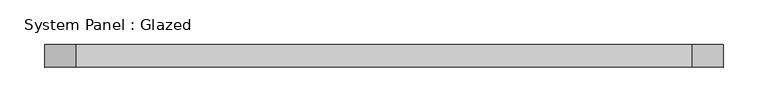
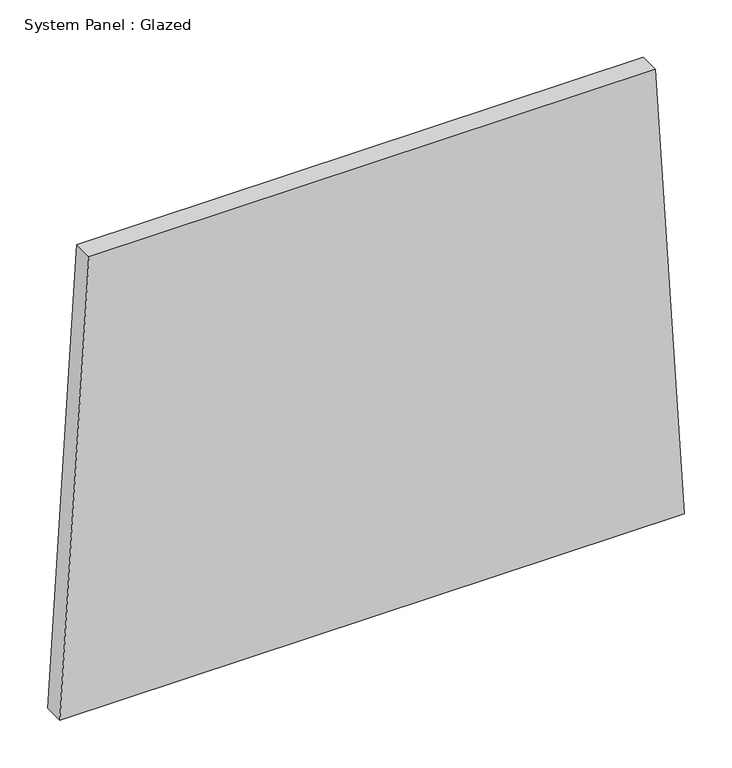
"""IFC4 building model written with IfcOpenShell, lengths in millimetres: plate geometry, System Panel : Glazed."""

from ifc_helpers import new_model, si_unit, frame, origin, place, context, project, spatial, polyline, outline, extrude, source, transform, mapped, element, save


def system_panel_glazed_fa5f9ab5(model_context):
    return source(origin(), model_context, "Body", "SweptSolid", [
        extrude(outline(polyline([(0.0, -379.354514), (0.0, 379.354514), (583.0834285, 344.0147429), (583.0834285, -344.0147429), (0.0, -379.354514)])), frame((0.0, 19.05, 0.0), z_axis=(0.0, 1.0, 0.0), x_axis=(0.0, 0.0, 1.0)), (0.0, 0.0, 1.0), 25.4),
    ])


if __name__ == "__main__":
    model = new_model("IFC4")
    model_context = context("Model", 3, world=origin())
    ifc_project = project(units=[si_unit("LENGTHUNIT", "METRE", prefix="MILLI")], contexts=[model_context])
    site = spatial("IfcSite", under=ifc_project)
    building = spatial("IfcBuilding", under=site)
    placement = place(None, origin())
    system_panel_glazed_shape = system_panel_glazed_fa5f9ab5(model_context)
    element("IfcPlate", 1, ObjectType="System Panel : Glazed", at=placement, inside=building, context=model_context, shape_type="MappedRepresentation", body=[
        mapped(system_panel_glazed_shape, transform((0.0, 0.0, 0.0), x_axis=(1.0, 0.0, 0.0), y_axis=(0.0, 1.0, 0.0), z_axis=(0.0, 0.0, 1.0))),
    ])
    save(model, "model.ifc")
